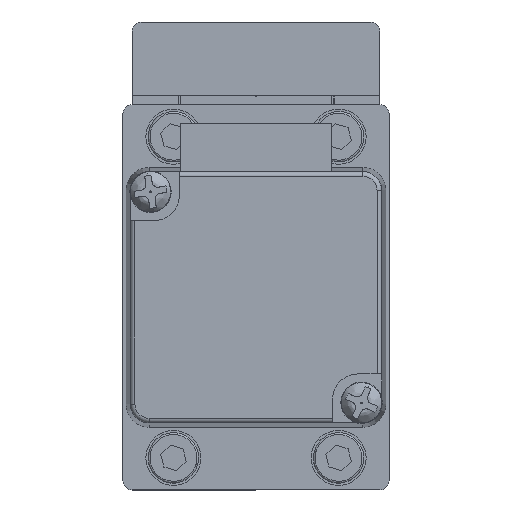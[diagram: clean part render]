
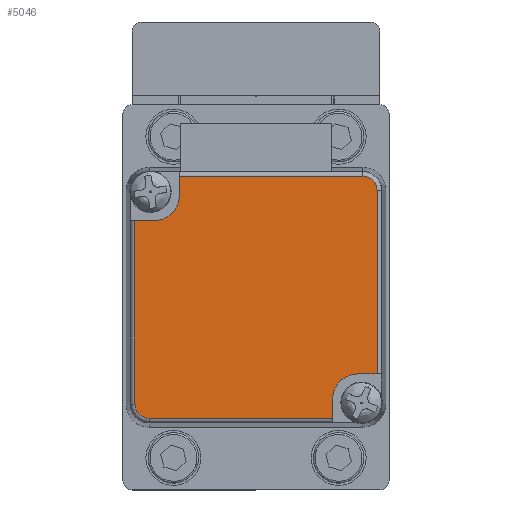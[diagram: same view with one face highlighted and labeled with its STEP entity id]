
A CAD part, left-side view. The second image highlights one B-rep face of the part: STEP entity #5046.
In plain terms, the highlighted planar face has unit normal (-1, 0, 0) as drawn and (0, 0, 1) by its records, which use the part's own axes.
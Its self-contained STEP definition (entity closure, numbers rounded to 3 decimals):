
#330 = VECTOR ( 'NONE', #3222, 1000. ) ;
#573 = CARTESIAN_POINT ( 'NONE',  ( 9.112, 5.325, 109.75 ) ) ;
#807 = LINE ( 'NONE', #978, #16656 ) ;
#824 = AXIS2_PLACEMENT_3D ( 'NONE', #5792, #16500, #7334 ) ;
#884 = EDGE_CURVE ( 'NONE', #14305, #11054, #807, .T. ) ;
#893 = EDGE_CURVE ( 'NONE', #6164, #18249, #4443, .T. ) ;
#956 = CARTESIAN_POINT ( 'NONE',  ( -10.343, -14.13, 109.75 ) ) ;
#978 = CARTESIAN_POINT ( 'NONE',  ( -12.432, -17.427, 109.75 ) ) ;
#1033 = DIRECTION ( 'NONE',  ( 0., 0., 1. ) ) ;
#1647 = DIRECTION ( 'NONE',  ( 0., -1., 0. ) ) ;
#2064 = VERTEX_POINT ( 'NONE', #5721 ) ;
#2263 = ORIENTED_EDGE ( 'NONE', *, *, #13721, .F. ) ;
#2461 = PLANE ( 'NONE',  #10360 ) ;
#2522 = CARTESIAN_POINT ( 'NONE',  ( -10.343, -14.13, 109.75 ) ) ;
#2680 = VECTOR ( 'NONE', #4221, 1000. ) ;
#2682 = CARTESIAN_POINT ( 'NONE',  ( 11.862, 5.325, 109.75 ) ) ;
#2936 = VECTOR ( 'NONE', #17863, 1000. ) ;
#3222 = DIRECTION ( 'NONE',  ( 1., 0., 0. ) ) ;
#3318 = VECTOR ( 'NONE', #8217, 1000. ) ;
#3360 = CARTESIAN_POINT ( 'NONE',  ( 11.862, 2.575, 109.75 ) ) ;
#3710 = DIRECTION ( 'NONE',  ( 0., 0., 1. ) ) ;
#4032 = CIRCLE ( 'NONE', #18217, 2.75 ) ;
#4110 = CARTESIAN_POINT ( 'NONE',  ( 13.951, 2.575, 109.75 ) ) ;
#4221 = DIRECTION ( 'NONE',  ( 0., 1., 0. ) ) ;
#4247 = DIRECTION ( 'NONE',  ( 0., -1., 0. ) ) ;
#4355 = DIRECTION ( 'NONE',  ( -1., 0., 0. ) ) ;
#4443 = LINE ( 'NONE', #7825, #330 ) ;
#4502 = CARTESIAN_POINT ( 'NONE',  ( -7.593, -16.88, 109.75 ) ) ;
#4514 = EDGE_CURVE ( 'NONE', #13238, #14305, #16492, .T. ) ;
#4681 = AXIS2_PLACEMENT_3D ( 'NONE', #12898, #3710, #14426 ) ;
#5046 = ADVANCED_FACE ( 'NONE', ( #15030 ), #2461, .T. ) ;
#5539 = CIRCLE ( 'NONE', #10356, 1.542 ) ;
#5721 = CARTESIAN_POINT ( 'NONE',  ( -7.593, -18.969, 109.75 ) ) ;
#5792 = CARTESIAN_POINT ( 'NONE',  ( -10.891, 5.873, 109.75 ) ) ;
#5804 = CARTESIAN_POINT ( 'NONE',  ( 13.951, 5.873, 109.75 ) ) ;
#6164 = VERTEX_POINT ( 'NONE', #3360 ) ;
#6683 = CARTESIAN_POINT ( 'NONE',  ( 12.409, -18.969, 109.75 ) ) ;
#6692 = CARTESIAN_POINT ( 'NONE',  ( -10.891, 7.415, 109.75 ) ) ;
#6824 = CIRCLE ( 'NONE', #4681, 2.75 ) ;
#6890 = ORIENTED_EDGE ( 'NONE', *, *, #884, .T. ) ;
#7334 = DIRECTION ( 'NONE',  ( 0., -1., 0. ) ) ;
#7541 = DIRECTION ( 'NONE',  ( 0., 0., 1. ) ) ;
#7825 = CARTESIAN_POINT ( 'NONE',  ( 11.862, 2.575, 109.75 ) ) ;
#7869 = LINE ( 'NONE', #6683, #3318 ) ;
#8020 = EDGE_CURVE ( 'NONE', #2064, #12747, #15393, .T. ) ;
#8084 = EDGE_CURVE ( 'NONE', #18977, #13238, #9881, .T. ) ;
#8217 = DIRECTION ( 'NONE',  ( 1., 0., 0. ) ) ;
#8496 = LINE ( 'NONE', #5804, #16162 ) ;
#8603 = CARTESIAN_POINT ( 'NONE',  ( 13.951, -17.427, 109.75 ) ) ;
#8757 = ORIENTED_EDGE ( 'NONE', *, *, #15181, .F. ) ;
#9414 = VECTOR ( 'NONE', #1647, 1000. ) ;
#9831 = ORIENTED_EDGE ( 'NONE', *, *, #8020, .F. ) ;
#9876 = ORIENTED_EDGE ( 'NONE', *, *, #15824, .T. ) ;
#9881 = LINE ( 'NONE', #11978, #13970 ) ;
#9985 = CARTESIAN_POINT ( 'NONE',  ( -7.593, -16.88, 109.75 ) ) ;
#10242 = CARTESIAN_POINT ( 'NONE',  ( 12.409, 5.873, 109.75 ) ) ;
#10356 = AXIS2_PLACEMENT_3D ( 'NONE', #16713, #7541, #18244 ) ;
#10360 = AXIS2_PLACEMENT_3D ( 'NONE', #10242, #1033, #11782 ) ;
#10517 = CARTESIAN_POINT ( 'NONE',  ( -12.432, -14.13, 109.75 ) ) ;
#11054 = VERTEX_POINT ( 'NONE', #10517 ) ;
#11163 = ORIENTED_EDGE ( 'NONE', *, *, #893, .F. ) ;
#11782 = DIRECTION ( 'NONE',  ( 0., -1., 0. ) ) ;
#11805 = ORIENTED_EDGE ( 'NONE', *, *, #8084, .T. ) ;
#11828 = EDGE_LOOP ( 'NONE', ( #11163, #19638, #2263, #11805, #16577, #6890, #8757, #13202, #9831, #19416, #9876, #15227 ) ) ;
#11978 = CARTESIAN_POINT ( 'NONE',  ( -10.891, 7.415, 109.75 ) ) ;
#12032 = LINE ( 'NONE', #956, #2936 ) ;
#12263 = EDGE_CURVE ( 'NONE', #17546, #18249, #8496, .T. ) ;
#12609 = DIRECTION ( 'NONE',  ( 0., -1., 0. ) ) ;
#12653 = EDGE_CURVE ( 'NONE', #12747, #15166, #6824, .T. ) ;
#12747 = VERTEX_POINT ( 'NONE', #9985 ) ;
#12898 = CARTESIAN_POINT ( 'NONE',  ( -10.343, -16.88, 109.75 ) ) ;
#13202 = ORIENTED_EDGE ( 'NONE', *, *, #12653, .F. ) ;
#13238 = VERTEX_POINT ( 'NONE', #6692 ) ;
#13429 = DIRECTION ( 'NONE',  ( 0., 0., 1. ) ) ;
#13504 = LINE ( 'NONE', #18454, #9414 ) ;
#13721 = EDGE_CURVE ( 'NONE', #18977, #14977, #13504, .T. ) ;
#13970 = VECTOR ( 'NONE', #4355, 1000. ) ;
#14305 = VERTEX_POINT ( 'NONE', #17361 ) ;
#14426 = DIRECTION ( 'NONE',  ( 0., 1., 0. ) ) ;
#14977 = VERTEX_POINT ( 'NONE', #573 ) ;
#15030 = FACE_OUTER_BOUND ( 'NONE', #11828, .T. ) ;
#15166 = VERTEX_POINT ( 'NONE', #2522 ) ;
#15181 = EDGE_CURVE ( 'NONE', #15166, #11054, #12032, .T. ) ;
#15227 = ORIENTED_EDGE ( 'NONE', *, *, #12263, .T. ) ;
#15393 = LINE ( 'NONE', #4502, #2680 ) ;
#15824 = EDGE_CURVE ( 'NONE', #17719, #17546, #5539, .T. ) ;
#16162 = VECTOR ( 'NONE', #19539, 1000. ) ;
#16492 = CIRCLE ( 'NONE', #824, 1.542 ) ;
#16500 = DIRECTION ( 'NONE',  ( 0., 0., 1. ) ) ;
#16577 = ORIENTED_EDGE ( 'NONE', *, *, #4514, .T. ) ;
#16606 = CARTESIAN_POINT ( 'NONE',  ( 9.112, 7.415, 109.75 ) ) ;
#16656 = VECTOR ( 'NONE', #12609, 1000. ) ;
#16713 = CARTESIAN_POINT ( 'NONE',  ( 12.409, -17.427, 109.75 ) ) ;
#17349 = EDGE_CURVE ( 'NONE', #2064, #17719, #7869, .T. ) ;
#17361 = CARTESIAN_POINT ( 'NONE',  ( -12.432, 5.873, 109.75 ) ) ;
#17546 = VERTEX_POINT ( 'NONE', #8603 ) ;
#17719 = VERTEX_POINT ( 'NONE', #19760 ) ;
#17863 = DIRECTION ( 'NONE',  ( -1., 0., 0. ) ) ;
#18217 = AXIS2_PLACEMENT_3D ( 'NONE', #2682, #13429, #4247 ) ;
#18244 = DIRECTION ( 'NONE',  ( 0., -1., 0. ) ) ;
#18249 = VERTEX_POINT ( 'NONE', #4110 ) ;
#18263 = EDGE_CURVE ( 'NONE', #14977, #6164, #4032, .T. ) ;
#18454 = CARTESIAN_POINT ( 'NONE',  ( 9.112, 5.325, 109.75 ) ) ;
#18977 = VERTEX_POINT ( 'NONE', #16606 ) ;
#19416 = ORIENTED_EDGE ( 'NONE', *, *, #17349, .T. ) ;
#19539 = DIRECTION ( 'NONE',  ( 0., 1., 0. ) ) ;
#19638 = ORIENTED_EDGE ( 'NONE', *, *, #18263, .F. ) ;
#19760 = CARTESIAN_POINT ( 'NONE',  ( 12.409, -18.969, 109.75 ) ) ;
